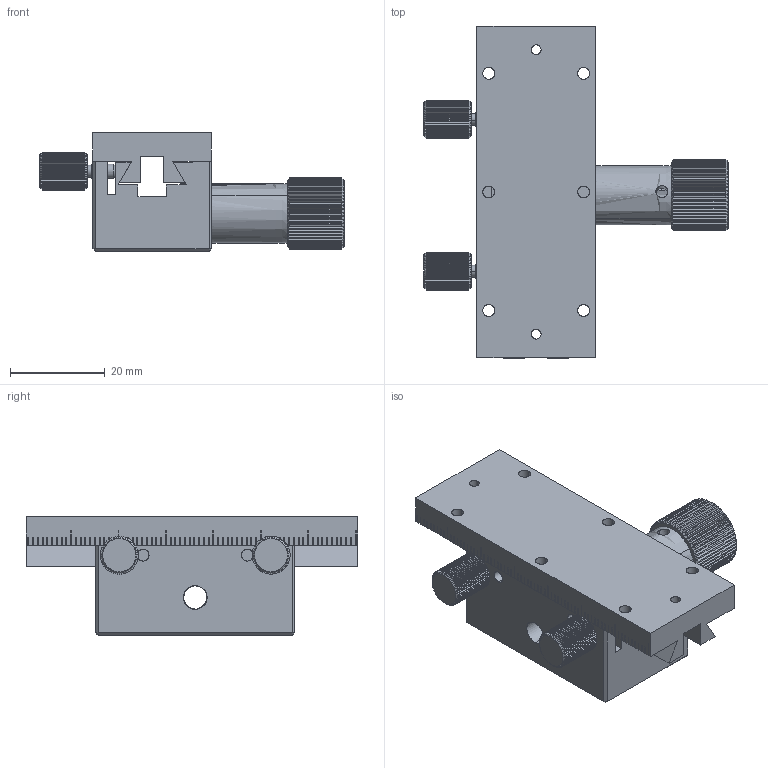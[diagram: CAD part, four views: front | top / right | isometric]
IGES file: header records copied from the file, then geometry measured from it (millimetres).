
Start section: SolidWorks IGES file using analytic representation for surfaces
Bounding box: 64.21 x 70 x 25 mm (x, y, z)
Surface area: 18250 mm2 (no closed solid volume)
Topology: 0 solids, 0 shells, 1129 faces, 8318 edges, 8298 vertices
Faces by surface type: bspline 711, revolution 418
